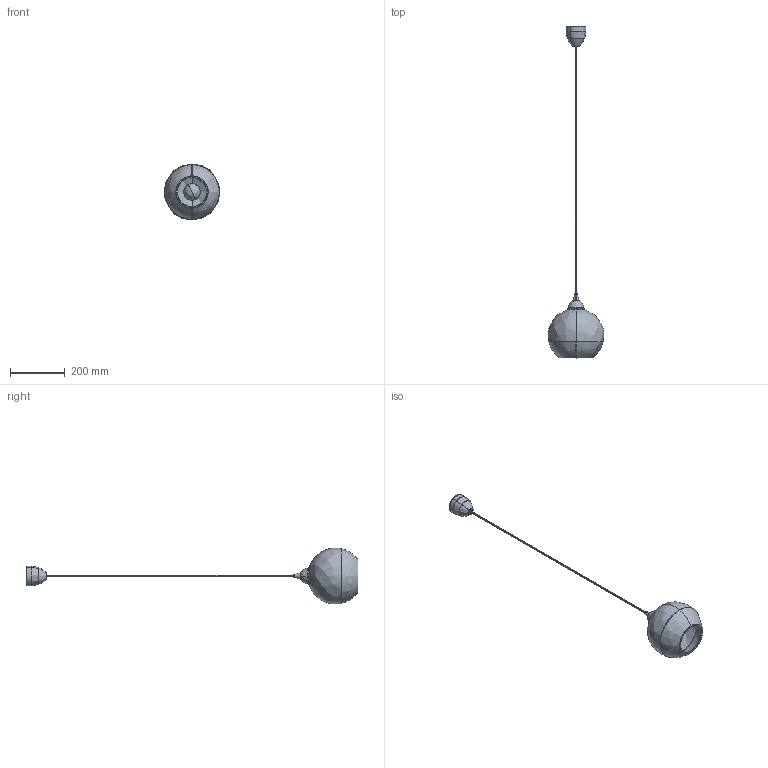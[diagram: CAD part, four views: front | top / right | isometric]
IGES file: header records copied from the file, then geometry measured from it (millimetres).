
Start section: SolidWorks IGES file using analytic representation for surfaces
Global section: file name: E:\3D lampy\Globe\Globe S\Globe_4952,5763.IGS; native system: SolidWorks 2016; preprocessor: SolidWorks 2016; author: Asia; date: 170929.095810; units: millimetre
Bounding box: 203.97 x 1214.24 x 204.82 mm (x, y, z)
Surface area: 373885.6 mm2 (no closed solid volume)
Topology: 0 solids, 0 shells, 271 faces, 5207 edges, 5187 vertices
Faces by surface type: revolution 136, bspline 135
